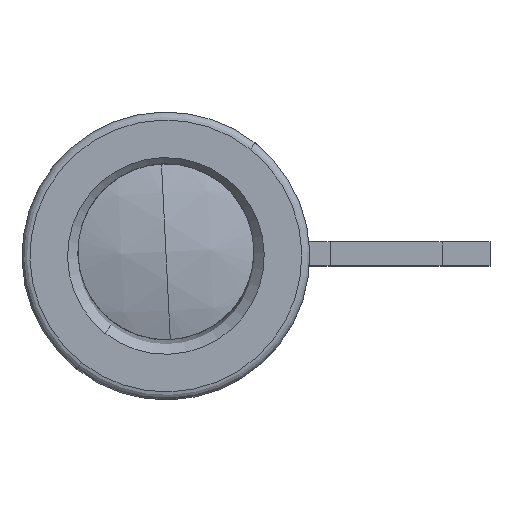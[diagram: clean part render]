
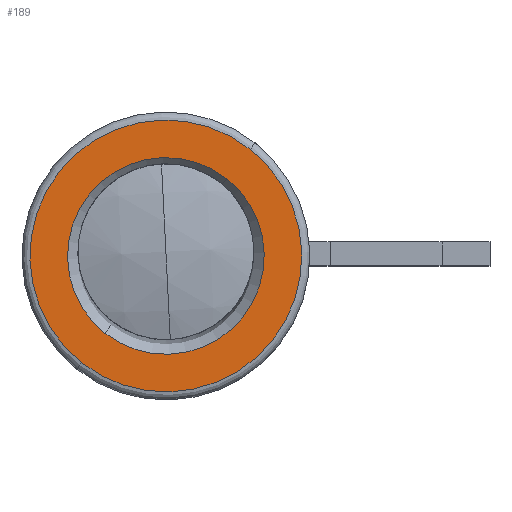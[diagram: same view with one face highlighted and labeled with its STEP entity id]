
A CAD part, top view. The second image highlights one B-rep face of the part: STEP entity #189.
In plain terms, the highlighted planar face has unit normal (0, 0, 1).
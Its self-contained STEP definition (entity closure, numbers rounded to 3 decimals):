
#10 = EDGE_CURVE ( 'NONE', #118, #119, #909, .T. ) ;
#65 = VERTEX_POINT ( 'NONE', #1041 ) ;
#118 = VERTEX_POINT ( 'NONE', #868 ) ;
#119 = VERTEX_POINT ( 'NONE', #875 ) ;
#189 = ADVANCED_FACE ( 'NONE', ( #1214, #1208 ), #1213, .F. ) ;
#191 = ORIENTED_EDGE ( 'NONE', *, *, #262, .T. ) ;
#192 = ORIENTED_EDGE ( 'NONE', *, *, #225, .T. ) ;
#225 = EDGE_CURVE ( 'NONE', #261, #65, #1106, .T. ) ;
#261 = VERTEX_POINT ( 'NONE', #1381 ) ;
#262 = EDGE_CURVE ( 'NONE', #65, #261, #1288, .T. ) ;
#269 = EDGE_LOOP ( 'NONE', ( #276, #271 ) ) ;
#271 = ORIENTED_EDGE ( 'NONE', *, *, #273, .F. ) ;
#273 = EDGE_CURVE ( 'NONE', #119, #118, #1307, .T. ) ;
#276 = ORIENTED_EDGE ( 'NONE', *, *, #10, .F. ) ;
#477 = EDGE_LOOP ( 'NONE', ( #192, #191 ) ) ;
#868 = CARTESIAN_POINT ( 'NONE',  ( 10.533, 13.343, 735. ) ) ;
#875 = CARTESIAN_POINT ( 'NONE',  ( -10.533, -13.343, 735. ) ) ;
#905 = CARTESIAN_POINT ( 'NONE',  ( 0., 0., 735. ) ) ;
#909 = CIRCLE ( 'NONE', #1017, 17. ) ;
#1013 = DIRECTION ( 'NONE',  ( 0.62, 0.785, 0. ) ) ;
#1014 = DIRECTION ( 'NONE',  ( 0., 0., -1. ) ) ;
#1017 = AXIS2_PLACEMENT_3D ( 'NONE', #905, #1014, #1013 ) ;
#1041 = CARTESIAN_POINT ( 'NONE',  ( 7.621, 9.654, 735. ) ) ;
#1067 = AXIS2_PLACEMENT_3D ( 'NONE', #1136, #1134, #1133 ) ;
#1106 = CIRCLE ( 'NONE', #1067, 12.3 ) ;
#1133 = DIRECTION ( 'NONE',  ( 0.62, 0.785, 0. ) ) ;
#1134 = DIRECTION ( 'NONE',  ( 0., 0., -1. ) ) ;
#1136 = CARTESIAN_POINT ( 'NONE',  ( 0., 0., 735. ) ) ;
#1195 = DIRECTION ( 'NONE',  ( 0.62, 0.785, 0. ) ) ;
#1197 = DIRECTION ( 'NONE',  ( 0., 0., -1. ) ) ;
#1204 = AXIS2_PLACEMENT_3D ( 'NONE', #1272, #1197, #1195 ) ;
#1208 = FACE_BOUND ( 'NONE', #477, .T. ) ;
#1213 = PLANE ( 'NONE',  #1204 ) ;
#1214 = FACE_OUTER_BOUND ( 'NONE', #269, .T. ) ;
#1272 = CARTESIAN_POINT ( 'NONE',  ( 9.654, -7.621, 735. ) ) ;
#1288 = CIRCLE ( 'NONE', #1532, 12.3 ) ;
#1307 = CIRCLE ( 'NONE', #1410, 17. ) ;
#1381 = CARTESIAN_POINT ( 'NONE',  ( -7.621, -9.654, 735. ) ) ;
#1407 = DIRECTION ( 'NONE',  ( 0.62, 0.785, 0. ) ) ;
#1408 = DIRECTION ( 'NONE',  ( 0., 0., -1. ) ) ;
#1409 = CARTESIAN_POINT ( 'NONE',  ( 0., 0., 735. ) ) ;
#1410 = AXIS2_PLACEMENT_3D ( 'NONE', #1409, #1408, #1407 ) ;
#1529 = DIRECTION ( 'NONE',  ( 0.62, 0.785, 0. ) ) ;
#1530 = DIRECTION ( 'NONE',  ( 0., 0., -1. ) ) ;
#1531 = CARTESIAN_POINT ( 'NONE',  ( 0., 0., 735. ) ) ;
#1532 = AXIS2_PLACEMENT_3D ( 'NONE', #1531, #1530, #1529 ) ;
